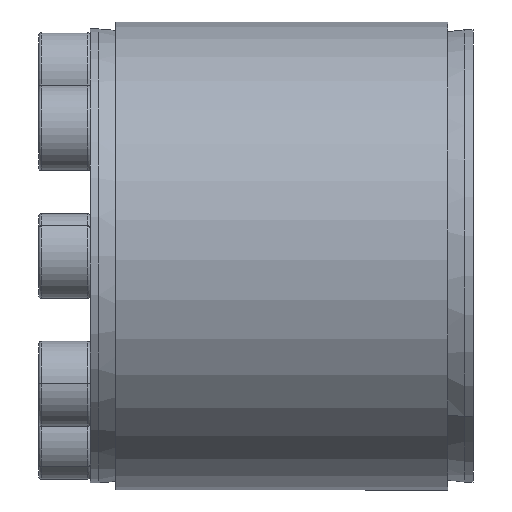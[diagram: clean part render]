
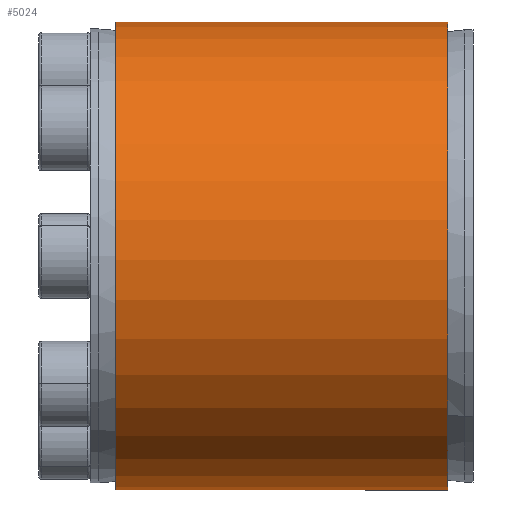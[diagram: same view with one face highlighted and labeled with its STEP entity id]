
A CAD part, front view. The second image highlights one B-rep face of the part: STEP entity #5024.
In plain terms, the highlighted cylindrical face has radius 27.5 mm (diameter 55 mm), a partial arc.
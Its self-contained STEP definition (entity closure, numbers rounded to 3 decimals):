
#223 = CARTESIAN_POINT ( 'NONE',  ( 21.733, 0., 0. ) ) ;
#599 = VERTEX_POINT ( 'NONE', #3654 ) ;
#1182 = EDGE_LOOP ( 'NONE', ( #5491, #5272, #5037, #2180 ) ) ;
#1657 = CARTESIAN_POINT ( 'NONE',  ( -43.289, 1., 27.482 ) ) ;
#2180 = ORIENTED_EDGE ( 'NONE', *, *, #2477, .F. ) ;
#2224 = DIRECTION ( 'NONE',  ( -1., 0., 0. ) ) ;
#2330 = VECTOR ( 'NONE', #6813, 1000. ) ;
#2477 = EDGE_CURVE ( 'NONE', #6205, #4241, #4015, .T. ) ;
#2605 = CARTESIAN_POINT ( 'NONE',  ( -17.267, -1., 27.482 ) ) ;
#2897 = DIRECTION ( 'NONE',  ( -1., 0., 0. ) ) ;
#2903 = EDGE_CURVE ( 'NONE', #599, #6205, #4523, .T. ) ;
#2927 = CARTESIAN_POINT ( 'NONE',  ( -43.289, 0., 0. ) ) ;
#2945 = CIRCLE ( 'NONE', #4834, 27.5 ) ;
#2964 = CARTESIAN_POINT ( 'NONE',  ( -17.267, 1., 27.482 ) ) ;
#3069 = DIRECTION ( 'NONE',  ( 0., 0., 1. ) ) ;
#3087 = EDGE_CURVE ( 'NONE', #599, #4695, #2945, .T. ) ;
#3290 = LINE ( 'NONE', #5186, #2330 ) ;
#3393 = EDGE_CURVE ( 'NONE', #4241, #4695, #3290, .T. ) ;
#3450 = CARTESIAN_POINT ( 'NONE',  ( -17.267, 0., 0. ) ) ;
#3621 = DIRECTION ( 'NONE',  ( 0., 0., 1. ) ) ;
#3654 = CARTESIAN_POINT ( 'NONE',  ( 21.733, 1., 27.482 ) ) ;
#3814 = DIRECTION ( 'NONE',  ( -1., 0., 0. ) ) ;
#3971 = CYLINDRICAL_SURFACE ( 'NONE', #6354, 27.5 ) ;
#4015 = CIRCLE ( 'NONE', #4424, 27.5 ) ;
#4200 = DIRECTION ( 'NONE',  ( -1., 0., 0. ) ) ;
#4241 = VERTEX_POINT ( 'NONE', #2605 ) ;
#4258 = FACE_OUTER_BOUND ( 'NONE', #1182, .T. ) ;
#4417 = VECTOR ( 'NONE', #2224, 1000. ) ;
#4424 = AXIS2_PLACEMENT_3D ( 'NONE', #3450, #3814, #7103 ) ;
#4523 = LINE ( 'NONE', #1657, #4417 ) ;
#4695 = VERTEX_POINT ( 'NONE', #5091 ) ;
#4834 = AXIS2_PLACEMENT_3D ( 'NONE', #223, #4200, #3621 ) ;
#5024 = ADVANCED_FACE ( 'NONE', ( #4258 ), #3971, .T. ) ;
#5037 = ORIENTED_EDGE ( 'NONE', *, *, #3393, .F. ) ;
#5091 = CARTESIAN_POINT ( 'NONE',  ( 21.733, -1., 27.482 ) ) ;
#5186 = CARTESIAN_POINT ( 'NONE',  ( -43.289, -1., 27.482 ) ) ;
#5272 = ORIENTED_EDGE ( 'NONE', *, *, #3087, .T. ) ;
#5491 = ORIENTED_EDGE ( 'NONE', *, *, #2903, .F. ) ;
#6205 = VERTEX_POINT ( 'NONE', #2964 ) ;
#6354 = AXIS2_PLACEMENT_3D ( 'NONE', #2927, #2897, #3069 ) ;
#6813 = DIRECTION ( 'NONE',  ( 1., 0., 0. ) ) ;
#7103 = DIRECTION ( 'NONE',  ( 0., 0., 1. ) ) ;
